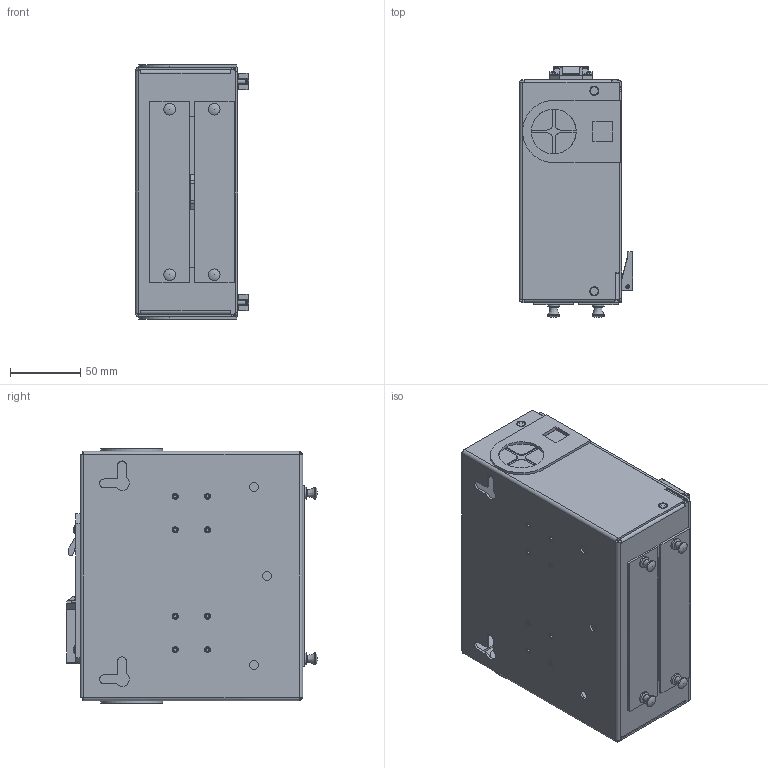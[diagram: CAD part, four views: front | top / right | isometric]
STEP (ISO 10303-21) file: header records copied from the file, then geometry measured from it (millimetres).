
FILE_DESCRIPTION(/* description */ ('STEP AP242','CAx-IF Rec.Pracs.---Representation and Presentation of Product Manufacturing Information (PMI)---4.0---2014-10-13','CAx-IF Rec.Pracs.---3D Tessellated Geometry---0.4---2014-09-14','2;1'),/* implementation_level */ '2;1');
FILE_NAME(/* name */ '6759e33558749b240e668c00',/* time_stamp */ '2024-12-11T19:08:38Z',/* author */ (''),/* organization */ (''),/* preprocessor_version */ 'ST-DEVELOPER v20',/* originating_system */ 'ONSHAPE BY PTC INC, 1.190',/* authorisation */ ' ');
FILE_SCHEMA (('AP242_MANAGED_MODEL_BASED_3D_ENGINEERING_MIM_LF { 1 0 10303 442 1 1 4 }'));
Length unit declared in the file: metre
Products named in the file (34): PWS2-A-1-D; Pan head machine screw #4-40 x 0.25; 30mm DIN Clip <1>; 30mm DIN Clip; 2 Plate - Wall Mount Slimline Patch Panel <1>; 2.75 inch Removable Grommet; SoCo 19-81-10 <2>; Handle - 19-81-10; Small Nut - 19-81-10; Shaft - 19-81-10; Pin - 19-81-10; Bushing - 19-81-10; SoCo 19-81-10 <1>; Blank Adapter Plate <1>; Blank LGX Footprint Plate; Mini Snap Latch <1>; Plunger - Mini Snap Latch; Grommet - Mini Snap Latch; Mini Snap Latch <2>; Blank Adapter Plate <2>; 2 Plate Patch Panel - Manufacturer Assembly <1>; Door; Hinge Pin; Housing <1>; Housing; PEM CLS-440-2  ; SK42BS x .13+ <3>; SKDEFAU0508321456065; SK42BS x .13+ <1>; SK42BS x .13+ <4>; SK42BS x .13+ <2>
Assembly tree (70 placements, depth 6):
  PWS2-A-1-D
    Pan head machine screw #4-40 x 0.25  x4
    30mm DIN Clip <1>
      30mm DIN Clip
    2 Plate - Wall Mount Slimline Patch Panel <1>
      2.75 inch Removable Grommet  x2
      SoCo 19-81-10 <2>
        Handle - 19-81-10
        Small Nut - 19-81-10
        Shaft - 19-81-10
        Pin - 19-81-10
        Bushing - 19-81-10
      SoCo 19-81-10 <1>
        Small Nut - 19-81-10
        Shaft - 19-81-10
        Handle - 19-81-10
        Bushing - 19-81-10
        Pin - 19-81-10
      Blank Adapter Plate <1>
        Blank LGX Footprint Plate
        Mini Snap Latch <1>
          Plunger - Mini Snap Latch
          Grommet - Mini Snap Latch
        Mini Snap Latch <2>
          Grommet - Mini Snap Latch
          Plunger - Mini Snap Latch
      Blank Adapter Plate <2>
        Mini Snap Latch <2>
          Grommet - Mini Snap Latch
          Plunger - Mini Snap Latch
        Mini Snap Latch <1>
          Plunger - Mini Snap Latch
          Grommet - Mini Snap Latch
        Blank LGX Footprint Plate
      2 Plate Patch Panel - Manufacturer Assembly <1>
        Door
        Hinge Pin
        Housing <1>
          Housing
          PEM CLS-440-2    x16
          SK42BS x .13+ <3>
            SKDEFAU0508321456065
            SKDEFAU0508321456065
          SK42BS x .13+ <1>
            SKDEFAU0508321456065
            SKDEFAU0508321456065
          SK42BS x .13+ <4>
            SKDEFAU0508321456065
            SKDEFAU0508321456065
          SK42BS x .13+ <2>
            SKDEFAU0508321456065
            SKDEFAU0508321456065
Bounding box: 80.62 x 178.85 x 181.53 mm (x, y, z)
Volume: 203082.2 mm3; surface area: 246003 mm2
Topology: 54 solids, 54 shells, 3069 faces, 8211 edges, 5323 vertices
Faces by surface type: plane 2162, cylinder 481, cone 178, torus 132, bspline 96, sphere 20
Full cylindrical faces by diameter (mm): 1.956 x4, 1.981 x2, 2.037 x4, 2.108 x2, 2.156 x16, 2.184 x8, 2.845 x4, 3.175 x5, 3.3 x10, 3.454 x2, 3.556 x4, 3.81 x12, 3.937 x4, 4.191 x16, 4.216 x16, 4.3 x2, 5.563 x4, 5.588 x8, 5.842 x4, 6.35 x23, 8.382 x8, 8.6 x2, 8.712 x2, 9.779 x2, 32.004 x4
Entity records: 29246 total; most frequent: CARTESIAN_POINT 5570, DIRECTION 4376, ORIENTED_EDGE 4248, EDGE_CURVE 2124, AXIS2_PLACEMENT_3D 1480, VERTEX_POINT 1418, LINE 1416, VECTOR 1416
